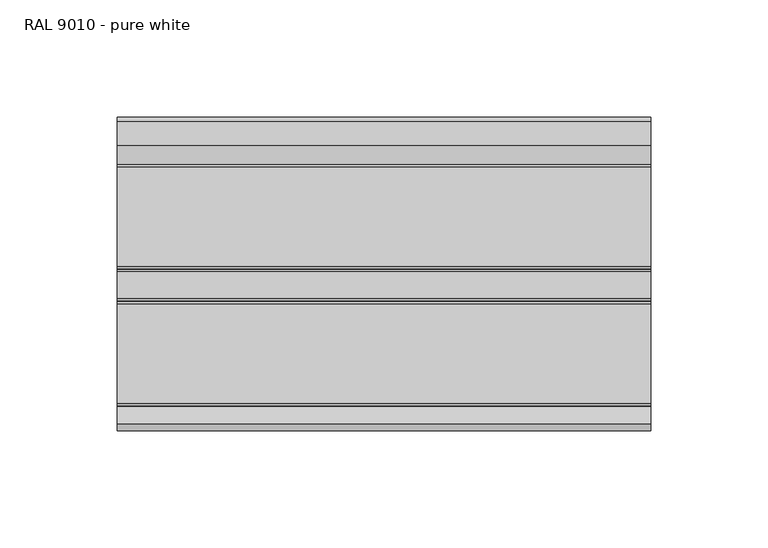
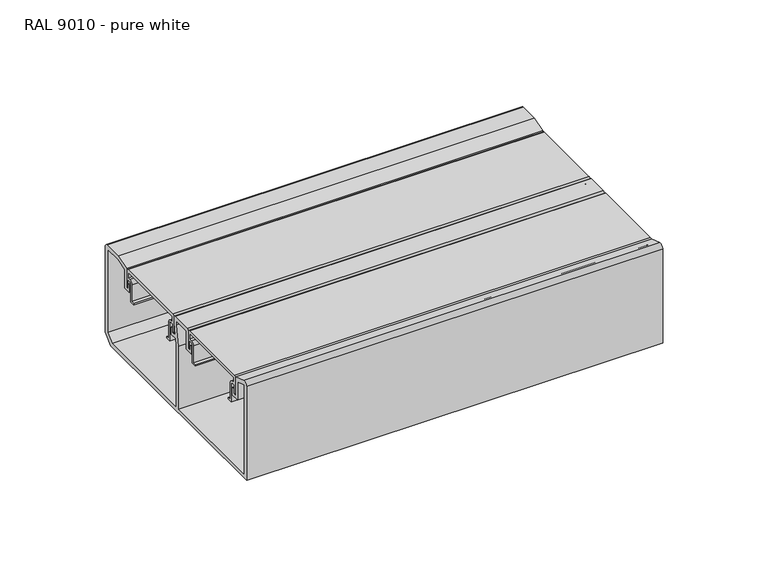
"""IFC4 building model written with IfcOpenShell, lengths in millimetres: proxy geometry, Electrical_Installations_Hager_GBD-Flat-Lid-End-Cap : RAL 9010 - pure white."""

from ifc_helpers import new_model, si_unit, point, frame, frame_2d, origin, place, context, project, spatial, polyline, circle_curve, trimmed, segment, composite_curve, outline, extrude, source, transform, mapped, element, save


def ral_9010_pure_white_502b18de(model_context):
    return source(origin(), model_context, "Body", "SweptSolid", [
        extrude(outline(composite_curve([segment(polyline([(-64.6976563, 54.0894343), (-64.6976563, 2.0), (-2.2476563, 2.0), (-2.2476563, 38.3324137), (-0.2476563, 49.6749773), (-0.2476563, 52.0), (-9.8476563, 52.0), (-9.8476563, 41.5012147), (-14.5382813, 41.5012147), (-14.5382813, 45.748101), (-13.5382813, 45.748101), (-13.5382813, 42.9887147), (-11.6476563, 42.9887147), (-11.6476563, 53.0031102)]), True, "CONTINUOUS"), segment(trimmed(circle_curve(frame_2d((-10.6507665, 53.0031102)), 0.9968898), [point((-11.6476563, 53.0031102))], [point((-10.6507665, 54.0))], False, "CARTESIAN"), True, "CONTINUOUS"), segment(polyline([(-10.6507665, 54.0), (0.7441474, 54.0)]), True, "CONTINUOUS"), segment(trimmed(circle_curve(frame_2d((0.7441474, 52.9918037)), 1.0081963), [point((0.7441474, 54.0))], [point((1.7523437, 52.9918037))], False, "CARTESIAN"), True, "CONTINUOUS"), segment(polyline([(1.7523437, 52.9918037), (1.7523437, 49.5), (0.6591165, 43.3), (3.2523437, 43.3), (3.2523437, 45.7537431), (4.2523437, 45.7537431), (4.2523437, 41.5), (0.3417279, 41.5), (-0.2476563, 38.1574364), (-0.2476563, 2.0), (60.5496526, 2.0), (64.5023437, 5.9526912), (64.5023437, 54.2), (54.8614746, 54.2), (48.5523437, 52.1500391), (48.5523437, 41.5), (44.2523437, 41.5), (44.2523437, 45.7556921), (45.2523437, 45.7556921), (45.2523437, 42.9887147), (46.7523437, 42.9887147), (46.7523437, 53.9835468), (54.4971904, 56.5), (64.8989144, 56.5)]), True, "CONTINUOUS"), segment(trimmed(circle_curve(frame_2d((64.8989144, 54.5965707)), 1.9034293), [point((64.8989144, 56.5))], [point((66.8023437, 54.5965707))], False, "CARTESIAN"), True, "CONTINUOUS"), segment(polyline([(66.8023437, 54.5965707), (66.8023437, 5.0), (61.8023437, 0.0), (-66.9976563, 0.0), (-66.9976563, 54.4045249)]), True, "CONTINUOUS"), segment(trimmed(circle_curve(frame_2d((-64.9278927, 54.4045249)), 2.0697636), [point((-66.9976563, 54.4045249))], [point((-64.2989994, 56.3764312))], False, "CARTESIAN"), True, "CONTINUOUS"), segment(polyline([(-64.2989994, 56.3764312), (-56.8429688, 53.998505), (-56.8429688, 42.9887147), (-54.6789063, 42.9887147), (-54.6789063, 45.7565885), (-53.6789063, 45.7565885), (-53.6789063, 41.5012147), (-58.4476563, 41.5012147), (-58.4476563, 52.0961433), (-64.6976563, 54.0894343)]), True, "CONTINUOUS")], self_intersect=False)), frame((0.0, 0.0, 0.0), z_axis=(1.0, 0.0, 0.0), x_axis=(0.0, 1.0, 0.0)), (0.0, 0.0, 1.0), 227.8115384),
        extrude(outline(composite_curve([segment(polyline([(-13.1613464, 52.5816445), (-55.0613464, 52.5816445), (-55.0613464, 49.2816445), (-53.7229555, 49.2816445)]), True, "CONTINUOUS"), segment(trimmed(circle_curve(frame_2d((-53.7229555, 47.1700354)), 2.1116091), [point((-53.7229555, 49.2816445))], [point((-51.6113464, 47.1700354))], False, "CARTESIAN"), True, "CONTINUOUS"), segment(polyline([(-51.6113464, 47.1700354), (-51.6113464, 37.6816445), (-49.7113464, 37.6816445), (-49.7113464, 36.8816445), (-52.6113464, 36.8816445), (-52.6113464, 47.3262929)]), True, "CONTINUOUS"), segment(trimmed(circle_curve(frame_2d((-53.566698, 47.3262929)), 0.9553516), [point((-52.6113464, 47.3262929))], [point((-53.566698, 48.2816445))], True, "CARTESIAN"), True, "CONTINUOUS"), segment(polyline([(-53.566698, 48.2816445), (-55.3644879, 48.2816445), (-55.3644879, 43.8012242), (-56.3660339, 43.8012242), (-56.3660339, 53.0900381)]), True, "CONTINUOUS"), segment(trimmed(circle_curve(frame_2d((-55.456072, 53.0900381)), 0.9099619), [point((-56.3660339, 53.0900381))], [point((-55.456072, 54.0))], False, "CARTESIAN"), True, "CONTINUOUS"), segment(polyline([(-55.456072, 54.0), (-12.9820268, 54.0)]), True, "CONTINUOUS"), segment(trimmed(circle_curve(frame_2d((-12.9820268, 52.9918196)), 1.0081804), [point((-12.9820268, 54.0))], [point((-11.9738464, 52.9918196))], False, "CARTESIAN"), True, "CONTINUOUS"), segment(polyline([(-11.9738464, 52.9918196), (-11.9738464, 43.8012242), (-12.858205, 43.8012242), (-12.858205, 48.2816445), (-14.6025892, 48.2816445)]), True, "CONTINUOUS"), segment(trimmed(circle_curve(frame_2d((-14.6025892, 47.2728873)), 1.0087572), [point((-14.6025892, 48.2816445))], [point((-15.6113464, 47.2728873))], True, "CARTESIAN"), True, "CONTINUOUS"), segment(polyline([(-15.6113464, 47.2728873), (-15.6113464, 36.8816445), (-18.5113464, 36.8816445), (-18.5113464, 37.6816445), (-16.6113464, 37.6816445), (-16.6113464, 47.3197896)]), True, "CONTINUOUS"), segment(trimmed(circle_curve(frame_2d((-14.6494915, 47.3197896)), 1.9618549), [point((-16.6113464, 47.3197896))], [point((-14.6494915, 49.2816445))], False, "CARTESIAN"), True, "CONTINUOUS"), segment(polyline([(-14.6494915, 49.2816445), (-13.1613464, 49.2816445), (-13.1613464, 52.5816445)]), True, "CONTINUOUS")], self_intersect=False)), frame((0.0, 0.0, 0.0), z_axis=(1.0, 0.0, 0.0), x_axis=(0.0, 1.0, 0.0)), (0.0, 0.0, 1.0), 227.8115384),
        extrude(outline(composite_curve([segment(polyline([(45.1923672, 52.5816445), (3.2923672, 52.5816445), (3.2923672, 49.2816445), (4.6307581, 49.2816445)]), True, "CONTINUOUS"), segment(trimmed(circle_curve(frame_2d((4.6307581, 47.1700354)), 2.1116091), [point((4.6307581, 49.2816445))], [point((6.7423672, 47.1700354))], False, "CARTESIAN"), True, "CONTINUOUS"), segment(polyline([(6.7423672, 47.1700354), (6.7423672, 37.6816445), (8.6423672, 37.6816445), (8.6423672, 36.8816445), (5.7423672, 36.8816445), (5.7423672, 47.3262929)]), True, "CONTINUOUS"), segment(trimmed(circle_curve(frame_2d((4.7870156, 47.3262929)), 0.9553516), [point((5.7423672, 47.3262929))], [point((4.7870156, 48.2816445))], True, "CARTESIAN"), True, "CONTINUOUS"), segment(polyline([(4.7870156, 48.2816445), (2.9892258, 48.2816445), (2.9892258, 43.8231023), (1.9876797, 43.8231023), (1.9876797, 53.0900381)]), True, "CONTINUOUS"), segment(trimmed(circle_curve(frame_2d((2.8976417, 53.0900381)), 0.9099619), [point((1.9876797, 53.0900381))], [point((2.8976417, 54.0))], False, "CARTESIAN"), True, "CONTINUOUS"), segment(polyline([(2.8976417, 54.0), (45.3716869, 54.0)]), True, "CONTINUOUS"), segment(trimmed(circle_curve(frame_2d((45.3716869, 52.9918196)), 1.0081804), [point((45.3716869, 54.0))], [point((46.3798672, 52.9918196))], False, "CARTESIAN"), True, "CONTINUOUS"), segment(polyline([(46.3798672, 52.9918196), (46.3798672, 43.9733035), (45.4955087, 43.9733035), (45.4955087, 48.2816445), (43.7511244, 48.2816445)]), True, "CONTINUOUS"), segment(trimmed(circle_curve(frame_2d((43.7511244, 47.2728873)), 1.0087572), [point((43.7511244, 48.2816445))], [point((42.7423672, 47.2728873))], True, "CARTESIAN"), True, "CONTINUOUS"), segment(polyline([(42.7423672, 47.2728873), (42.7423672, 36.8816445), (39.8423672, 36.8816445), (39.8423672, 37.6816445), (41.7423672, 37.6816445), (41.7423672, 47.3197896)]), True, "CONTINUOUS"), segment(trimmed(circle_curve(frame_2d((43.7042221, 47.3197896)), 1.9618549), [point((41.7423672, 47.3197896))], [point((43.7042221, 49.2816445))], False, "CARTESIAN"), True, "CONTINUOUS"), segment(polyline([(43.7042221, 49.2816445), (45.1923672, 49.2816445), (45.1923672, 52.5816445)]), True, "CONTINUOUS")], self_intersect=False)), frame((0.0, 0.0, 0.0), z_axis=(1.0, 0.0, 0.0), x_axis=(0.0, 1.0, 0.0)), (0.0, 0.0, 1.0), 227.8115384),
    ])


if __name__ == "__main__":
    model = new_model("IFC4")
    model_context = context("Model", 3, world=origin())
    ifc_project = project(units=[si_unit("LENGTHUNIT", "METRE", prefix="MILLI")], contexts=[model_context])
    site = spatial("IfcSite", under=ifc_project)
    building = spatial("IfcBuilding", under=site)
    placement = place(None, origin())
    ral_9010_pure_white_shape = ral_9010_pure_white_502b18de(model_context)
    element("IfcBuildingElementProxy", 1, Name="Electrical_Installations_Hager_GBD-Flat-Lid-End-Cap : RAL 9010 - pure white", ObjectType="Electrical_Installations_Hager_GBD-Flat-Lid-End-Cap : RAL 9010 - pure white", at=placement, inside=building, context=model_context, shape_type="MappedRepresentation", body=[
        mapped(ral_9010_pure_white_shape, transform((0.0, 0.0, 0.0), x_axis=(1.0, 0.0, 0.0), y_axis=(0.0, 1.0, 0.0), z_axis=(0.0, 0.0, 1.0))),
    ])
    save(model, "model.ifc")
